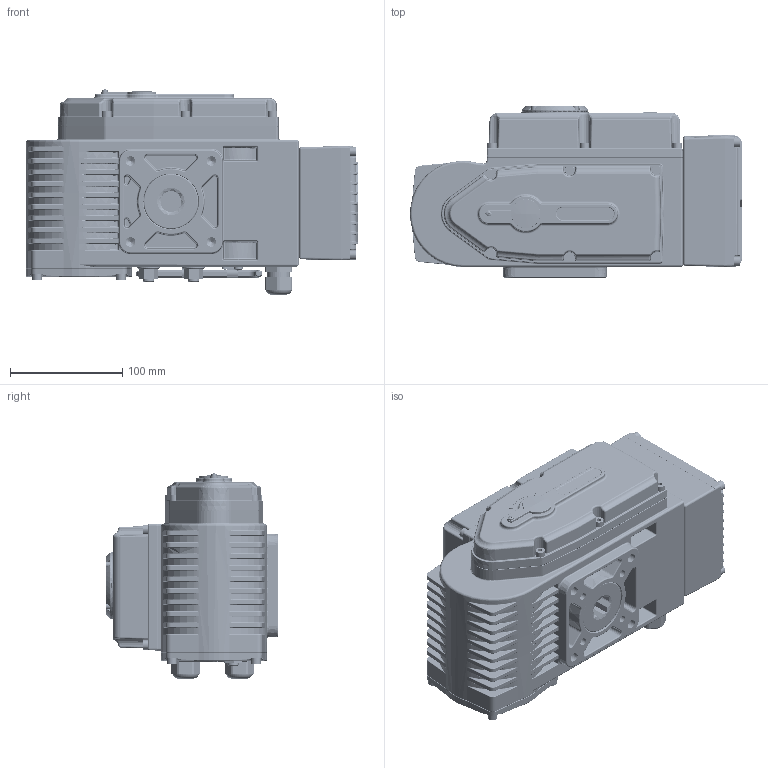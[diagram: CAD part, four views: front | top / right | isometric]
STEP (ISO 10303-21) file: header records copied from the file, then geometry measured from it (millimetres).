
FILE_DESCRIPTION (( 'STEP AP214' ), '1' );
FILE_NAME ('JYM-20E.STEP', '2026-08-14T02:45:27', ( 'Windows 蚚誧' ), ( 'Microsoft' ), 'SwSTEP 2.0', 'SolidWorks 2018', '' );
FILE_SCHEMA (( 'AUTOMOTIVE_DESIGN' ));
Length unit declared in the file: millimetre
Products named in the file (3): JYM-20-JYM-50; JYM-20E; 俋离諉盄碟
Assembly tree (2 placements, depth 2):
  JYM-20E
    JYM-20-JYM-50
    俋离諉盄碟
Bounding box: 296.05 x 153.1 x 182.99 mm (x, y, z)
Volume: 2906795.3 mm3; surface area: 596013.8 mm2
Topology: 51 solids, 55 shells, 7246 faces, 17162 edges, 9929 vertices
Faces by surface type: cylinder 2066, bspline 1782, plane 1683, torus 958, cone 577, sphere 180
Entity records: 289065 total; most frequent: CARTESIAN_POINT 124655, ORIENTED_EDGE 33562, DIRECTION 30977, EDGE_CURVE 16781, AXIS2_PLACEMENT_3D 12539, VERTEX_POINT 9929, EDGE_LOOP 7612, FACE_OUTER_BOUND 7246
